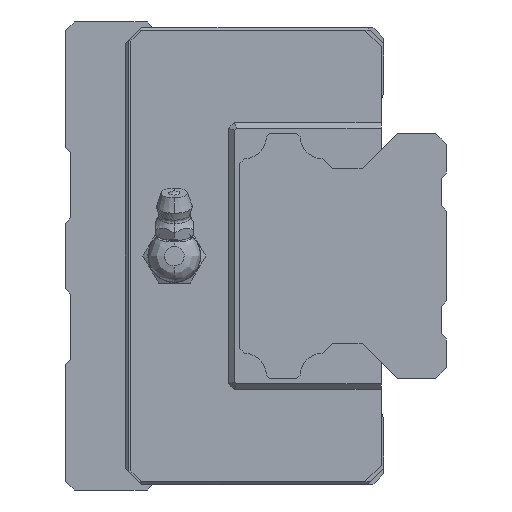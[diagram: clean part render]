
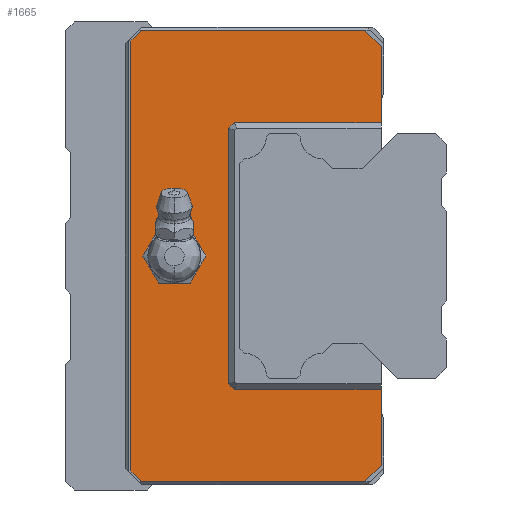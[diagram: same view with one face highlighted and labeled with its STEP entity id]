
A CAD part, left-side view. The second image highlights one B-rep face of the part: STEP entity #1665.
In plain terms, the highlighted planar face has unit normal (-1, 0, 0).
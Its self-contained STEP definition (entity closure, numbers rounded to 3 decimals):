
#65 = CARTESIAN_POINT ( 'NONE',  ( 194.5, 12., 24.5 ) ) ;
#397 = AXIS2_PLACEMENT_3D ( 'NONE', #1363, #3276, #7943 ) ;
#464 = LINE ( 'NONE', #518, #3609 ) ;
#518 = CARTESIAN_POINT ( 'NONE',  ( 194.5, 10., 24.5 ) ) ;
#522 = CARTESIAN_POINT ( 'NONE',  ( 194.5, 40., 0. ) ) ;
#716 = DIRECTION ( 'NONE',  ( 0., -0.707, -0.707 ) ) ;
#736 = LINE ( 'NONE', #5940, #6213 ) ;
#951 = CARTESIAN_POINT ( 'NONE',  ( 194.5, 40., 23.5 ) ) ;
#991 = LINE ( 'NONE', #3537, #3187 ) ;
#1201 = VERTEX_POINT ( 'NONE', #65 ) ;
#1363 = CARTESIAN_POINT ( 'NONE',  ( 194.5, 50., 0. ) ) ;
#1374 = VECTOR ( 'NONE', #5212, 1000. ) ;
#1442 = ORIENTED_EDGE ( 'NONE', *, *, #8048, .F. ) ;
#1445 = VERTEX_POINT ( 'NONE', #3054 ) ;
#1452 = AXIS2_PLACEMENT_3D ( 'NONE', #4887, #8203, #4920 ) ;
#1665 = ADVANCED_FACE ( 'NONE', ( #6954, #1849 ), #3461, .F. ) ;
#1699 = EDGE_CURVE ( 'NONE', #7718, #2284, #7986, .T. ) ;
#1849 = FACE_BOUND ( 'NONE', #1870, .T. ) ;
#1870 = EDGE_LOOP ( 'NONE', ( #3820, #4385 ) ) ;
#1952 = ORIENTED_EDGE ( 'NONE', *, *, #4836, .F. ) ;
#2138 = CARTESIAN_POINT ( 'NONE',  ( 194.5, 40., -23.5 ) ) ;
#2238 = VECTOR ( 'NONE', #5165, 1000. ) ;
#2249 = EDGE_CURVE ( 'NONE', #3423, #7089, #991, .T. ) ;
#2269 = VECTOR ( 'NONE', #7211, 1000. ) ;
#2284 = VERTEX_POINT ( 'NONE', #3685 ) ;
#2294 = VERTEX_POINT ( 'NONE', #3075 ) ;
#2391 = ORIENTED_EDGE ( 'NONE', *, *, #2249, .F. ) ;
#2397 = EDGE_CURVE ( 'NONE', #1201, #3423, #464, .T. ) ;
#2414 = EDGE_CURVE ( 'NONE', #8573, #1201, #7355, .T. ) ;
#2543 = DIRECTION ( 'NONE',  ( 0., 1., 0. ) ) ;
#2560 = CARTESIAN_POINT ( 'NONE',  ( 194.5, 56., -41.5 ) ) ;
#2561 = VERTEX_POINT ( 'NONE', #8627 ) ;
#2641 = VECTOR ( 'NONE', #6734, 1000. ) ;
#2666 = ORIENTED_EDGE ( 'NONE', *, *, #3003, .F. ) ;
#2694 = DIRECTION ( 'NONE',  ( 0., 0., 1. ) ) ;
#2696 = ORIENTED_EDGE ( 'NONE', *, *, #4005, .F. ) ;
#2869 = CARTESIAN_POINT ( 'NONE',  ( 194.5, 12., -38.5 ) ) ;
#3003 = EDGE_CURVE ( 'NONE', #2561, #1445, #6710, .T. ) ;
#3029 = VERTEX_POINT ( 'NONE', #3167 ) ;
#3054 = CARTESIAN_POINT ( 'NONE',  ( 194.5, 56., -41.5 ) ) ;
#3056 = CIRCLE ( 'NONE', #3875, 4.864 ) ;
#3075 = CARTESIAN_POINT ( 'NONE',  ( 194.5, 50., -4.864 ) ) ;
#3145 = EDGE_CURVE ( 'NONE', #6704, #3515, #5969, .T. ) ;
#3167 = CARTESIAN_POINT ( 'NONE',  ( 194.5, 58., -39.5 ) ) ;
#3187 = VECTOR ( 'NONE', #3715, 1000. ) ;
#3276 = DIRECTION ( 'NONE',  ( -1., 0., 0. ) ) ;
#3360 = EDGE_CURVE ( 'NONE', #2294, #5920, #3056, .T. ) ;
#3423 = VERTEX_POINT ( 'NONE', #5327 ) ;
#3427 = LINE ( 'NONE', #2560, #8543 ) ;
#3455 = CARTESIAN_POINT ( 'NONE',  ( 194.5, 10., 41.5 ) ) ;
#3461 = PLANE ( 'NONE',  #1452 ) ;
#3515 = VERTEX_POINT ( 'NONE', #2869 ) ;
#3537 = CARTESIAN_POINT ( 'NONE',  ( 194.5, 39., 24.5 ) ) ;
#3551 = EDGE_CURVE ( 'NONE', #3945, #7718, #4809, .T. ) ;
#3609 = VECTOR ( 'NONE', #2543, 1000. ) ;
#3685 = CARTESIAN_POINT ( 'NONE',  ( 194.5, 15., 41.5 ) ) ;
#3715 = DIRECTION ( 'NONE',  ( 0., 0.707, -0.707 ) ) ;
#3820 = ORIENTED_EDGE ( 'NONE', *, *, #5467, .F. ) ;
#3875 = AXIS2_PLACEMENT_3D ( 'NONE', #6582, #7185, #2694 ) ;
#3904 = DIRECTION ( 'NONE',  ( 0., 0., -1. ) ) ;
#3912 = ORIENTED_EDGE ( 'NONE', *, *, #8013, .F. ) ;
#3935 = LINE ( 'NONE', #522, #2269 ) ;
#3945 = VERTEX_POINT ( 'NONE', #5063 ) ;
#4005 = EDGE_CURVE ( 'NONE', #3515, #2561, #4928, .T. ) ;
#4073 = CARTESIAN_POINT ( 'NONE',  ( 194.5, 12., -24.5 ) ) ;
#4186 = EDGE_CURVE ( 'NONE', #3029, #3945, #7478, .T. ) ;
#4220 = ORIENTED_EDGE ( 'NONE', *, *, #1699, .F. ) ;
#4330 = DIRECTION ( 'NONE',  ( 0., -0.707, 0.707 ) ) ;
#4351 = VECTOR ( 'NONE', #6840, 1000. ) ;
#4385 = ORIENTED_EDGE ( 'NONE', *, *, #3360, .F. ) ;
#4470 = LINE ( 'NONE', #5743, #7596 ) ;
#4641 = CARTESIAN_POINT ( 'NONE',  ( 194.5, 13., -39.5 ) ) ;
#4809 = LINE ( 'NONE', #6828, #6904 ) ;
#4836 = EDGE_CURVE ( 'NONE', #7958, #6704, #6300, .T. ) ;
#4887 = CARTESIAN_POINT ( 'NONE',  ( 194.5, 10., 0. ) ) ;
#4920 = DIRECTION ( 'NONE',  ( 0., 0., -1. ) ) ;
#4924 = DIRECTION ( 'NONE',  ( 0., 0., 1. ) ) ;
#4928 = LINE ( 'NONE', #4641, #1374 ) ;
#5063 = CARTESIAN_POINT ( 'NONE',  ( 194.5, 58., 39.5 ) ) ;
#5078 = DIRECTION ( 'NONE',  ( 0., -0.707, -0.707 ) ) ;
#5165 = DIRECTION ( 'NONE',  ( 0., 1., 0. ) ) ;
#5212 = DIRECTION ( 'NONE',  ( 0., 0.707, -0.707 ) ) ;
#5327 = CARTESIAN_POINT ( 'NONE',  ( 194.5, 39., 24.5 ) ) ;
#5355 = VECTOR ( 'NONE', #3904, 1000. ) ;
#5441 = VECTOR ( 'NONE', #7236, 1000. ) ;
#5467 = EDGE_CURVE ( 'NONE', #5920, #2294, #7559, .T. ) ;
#5698 = VECTOR ( 'NONE', #4924, 1000. ) ;
#5743 = CARTESIAN_POINT ( 'NONE',  ( 194.5, 15., 41.5 ) ) ;
#5852 = DIRECTION ( 'NONE',  ( 0., 0.707, 0.707 ) ) ;
#5920 = VERTEX_POINT ( 'NONE', #5921 ) ;
#5921 = CARTESIAN_POINT ( 'NONE',  ( 194.5, 50., 4.864 ) ) ;
#5940 = CARTESIAN_POINT ( 'NONE',  ( 194.5, 40., -23.5 ) ) ;
#5969 = LINE ( 'NONE', #6819, #2641 ) ;
#6037 = CARTESIAN_POINT ( 'NONE',  ( 194.5, 10., -24.5 ) ) ;
#6041 = ORIENTED_EDGE ( 'NONE', *, *, #2397, .F. ) ;
#6133 = ORIENTED_EDGE ( 'NONE', *, *, #3551, .F. ) ;
#6213 = VECTOR ( 'NONE', #716, 1000. ) ;
#6300 = LINE ( 'NONE', #6037, #5441 ) ;
#6582 = CARTESIAN_POINT ( 'NONE',  ( 194.5, 50., 0. ) ) ;
#6704 = VERTEX_POINT ( 'NONE', #4073 ) ;
#6710 = LINE ( 'NONE', #7210, #2238 ) ;
#6722 = EDGE_LOOP ( 'NONE', ( #1442, #3912, #2391, #6041, #8346, #7391, #4220, #6133, #7358, #7256, #2666, #2696, #8519, #1952 ) ) ;
#6734 = DIRECTION ( 'NONE',  ( 0., 0., -1. ) ) ;
#6819 = CARTESIAN_POINT ( 'NONE',  ( 194.5, 12., 0. ) ) ;
#6828 = CARTESIAN_POINT ( 'NONE',  ( 194.5, 58., 39.5 ) ) ;
#6840 = DIRECTION ( 'NONE',  ( 0., -1., 0. ) ) ;
#6904 = VECTOR ( 'NONE', #4330, 1000. ) ;
#6951 = CARTESIAN_POINT ( 'NONE',  ( 194.5, 56., 41.5 ) ) ;
#6954 = FACE_OUTER_BOUND ( 'NONE', #6722, .T. ) ;
#7006 = VERTEX_POINT ( 'NONE', #2138 ) ;
#7089 = VERTEX_POINT ( 'NONE', #951 ) ;
#7177 = CARTESIAN_POINT ( 'NONE',  ( 194.5, 39., -24.5 ) ) ;
#7185 = DIRECTION ( 'NONE',  ( -1., 0., 0. ) ) ;
#7210 = CARTESIAN_POINT ( 'NONE',  ( 194.5, 15., -41.5 ) ) ;
#7211 = DIRECTION ( 'NONE',  ( 0., 0., -1. ) ) ;
#7236 = DIRECTION ( 'NONE',  ( 0., -1., 0. ) ) ;
#7256 = ORIENTED_EDGE ( 'NONE', *, *, #7524, .F. ) ;
#7355 = LINE ( 'NONE', #8488, #5355 ) ;
#7358 = ORIENTED_EDGE ( 'NONE', *, *, #4186, .F. ) ;
#7391 = ORIENTED_EDGE ( 'NONE', *, *, #7782, .F. ) ;
#7478 = LINE ( 'NONE', #8156, #5698 ) ;
#7524 = EDGE_CURVE ( 'NONE', #1445, #3029, #3427, .T. ) ;
#7559 = CIRCLE ( 'NONE', #397, 4.864 ) ;
#7596 = VECTOR ( 'NONE', #5078, 1000. ) ;
#7718 = VERTEX_POINT ( 'NONE', #6951 ) ;
#7782 = EDGE_CURVE ( 'NONE', #2284, #8573, #4470, .T. ) ;
#7943 = DIRECTION ( 'NONE',  ( 0., 0., 1. ) ) ;
#7958 = VERTEX_POINT ( 'NONE', #7177 ) ;
#7971 = CARTESIAN_POINT ( 'NONE',  ( 194.5, 12., 38.5 ) ) ;
#7986 = LINE ( 'NONE', #3455, #4351 ) ;
#8013 = EDGE_CURVE ( 'NONE', #7089, #7006, #3935, .T. ) ;
#8048 = EDGE_CURVE ( 'NONE', #7006, #7958, #736, .T. ) ;
#8156 = CARTESIAN_POINT ( 'NONE',  ( 194.5, 58., -39.5 ) ) ;
#8203 = DIRECTION ( 'NONE',  ( 1., 0., 0. ) ) ;
#8346 = ORIENTED_EDGE ( 'NONE', *, *, #2414, .F. ) ;
#8488 = CARTESIAN_POINT ( 'NONE',  ( 194.5, 12., 0. ) ) ;
#8519 = ORIENTED_EDGE ( 'NONE', *, *, #3145, .F. ) ;
#8543 = VECTOR ( 'NONE', #5852, 1000. ) ;
#8573 = VERTEX_POINT ( 'NONE', #7971 ) ;
#8627 = CARTESIAN_POINT ( 'NONE',  ( 194.5, 15., -41.5 ) ) ;
